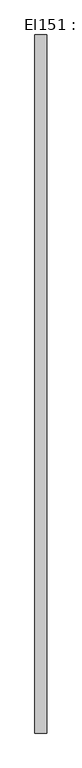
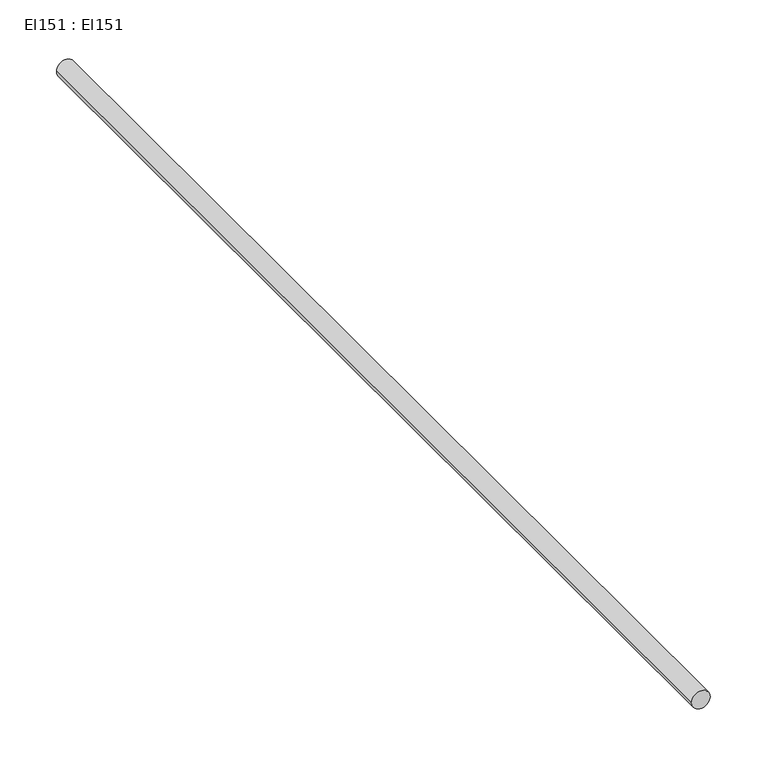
"""IFC4 building model written with IfcOpenShell, lengths in millimetres: cable carrier segment geometry, El151 : El151."""

from ifc_helpers import new_model, si_unit, point, frame, frame_2d, origin, place, context, project, spatial, circle_curve, trimmed, segment, composite_curve, outline, extrude, source, transform, mapped, element, save


def el151_el151_ae2d925b(model_context):
    return source(origin(), model_context, "Body", "SweptSolid", [
        extrude(outline(composite_curve([segment(trimmed(circle_curve(frame_2d((300.0, 21030.0)), 9.5), [point((300.0, 21020.5))], [point((300.0, 21039.5))], False, "CARTESIAN"), True, "CONTINUOUS"), segment(trimmed(circle_curve(frame_2d((300.0, 21030.0)), 9.5), [point((300.0, 21039.5))], [point((300.0, 21020.5))], False, "CARTESIAN"), True, "CONTINUOUS")], self_intersect=False)), frame((0.0, 10596.723, 0.0), z_axis=(0.0, 1.0, 0.0), x_axis=(0.0, 0.0, 1.0)), (0.0, 0.0, 1.0), 1124.15),
    ])


if __name__ == "__main__":
    model = new_model("IFC4")
    model_context = context("Model", 3, world=origin())
    ifc_project = project(units=[si_unit("LENGTHUNIT", "METRE", prefix="MILLI")], contexts=[model_context])
    site = spatial("IfcSite", under=ifc_project)
    building = spatial("IfcBuilding", under=site)
    placement = place(None, origin())
    el151_el151_shape = el151_el151_ae2d925b(model_context)
    element("IfcCableCarrierSegment", 1, ObjectType="El151 : El151", at=placement, inside=building, context=model_context, shape_type="MappedRepresentation", body=[
        mapped(el151_el151_shape, transform((0.0, 0.0, 0.0), x_axis=(1.0, 0.0, 0.0), y_axis=(0.0, 1.0, 0.0), z_axis=(0.0, 0.0, 1.0))),
    ])
    save(model, "model.ifc")
